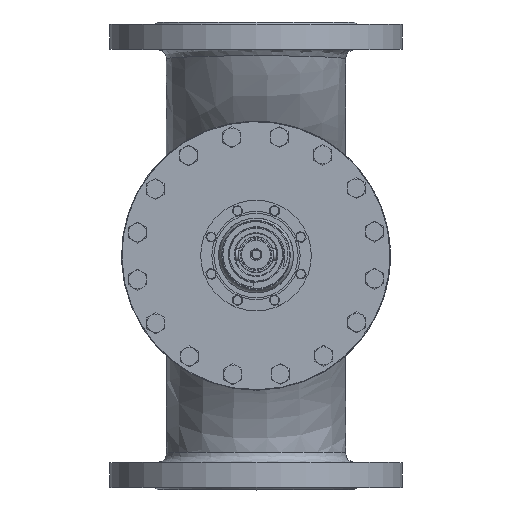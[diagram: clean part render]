
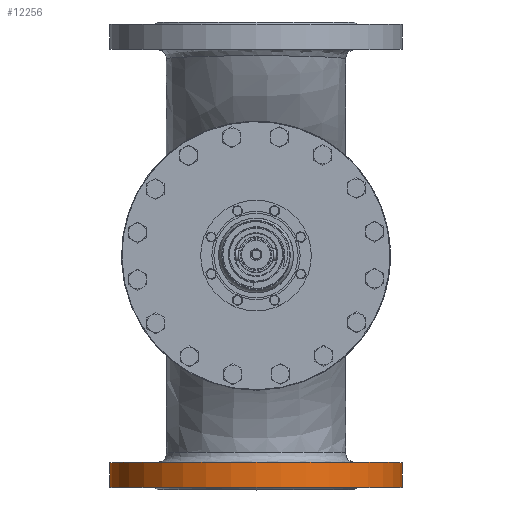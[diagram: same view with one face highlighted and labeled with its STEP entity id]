
A CAD part, top view. The second image highlights one B-rep face of the part: STEP entity #12256.
In plain terms, the highlighted cylindrical face has radius 187.5 mm (diameter 375 mm), a full revolution.
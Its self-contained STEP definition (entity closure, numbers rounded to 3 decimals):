
#2165=FACE_BOUND('',#4385,.T.);
#2442=CYLINDRICAL_SURFACE('',#13570,187.5);
#3185=FACE_OUTER_BOUND('',#4384,.T.);
#4384=EDGE_LOOP('',(#10631));
#4385=EDGE_LOOP('',(#10632));
#5125=CIRCLE('',#13569,187.5);
#5126=CIRCLE('',#13571,187.5);
#6285=VERTEX_POINT('',#40203);
#6286=VERTEX_POINT('',#40206);
#7824=EDGE_CURVE('',#6285,#6285,#5125,.T.);
#7825=EDGE_CURVE('',#6286,#6286,#5126,.T.);
#10631=ORIENTED_EDGE('',*,*,#7824,.T.);
#10632=ORIENTED_EDGE('',*,*,#7825,.F.);
#12256=ADVANCED_FACE('',(#3185,#2165),#2442,.T.);
#13569=AXIS2_PLACEMENT_3D('',#40204,#16575,#16576);
#13570=AXIS2_PLACEMENT_3D('',#40205,#16577,#16578);
#13571=AXIS2_PLACEMENT_3D('',#40207,#16579,#16580);
#16575=DIRECTION('center_axis',(0.,1.,0.));
#16576=DIRECTION('ref_axis',(1.,0.,0.));
#16577=DIRECTION('center_axis',(0.,1.,0.));
#16578=DIRECTION('ref_axis',(1.,0.,0.));
#16579=DIRECTION('center_axis',(0.,1.,0.));
#16580=DIRECTION('ref_axis',(1.,0.,0.));
#40203=CARTESIAN_POINT('',(-640.826,324.711,-93.899));
#40204=CARTESIAN_POINT('Origin',(-453.326,324.711,-93.899));
#40205=CARTESIAN_POINT('Origin',(-453.326,340.711,-93.899));
#40206=CARTESIAN_POINT('',(-640.826,356.711,-93.899));
#40207=CARTESIAN_POINT('Origin',(-453.326,356.711,-93.899));
